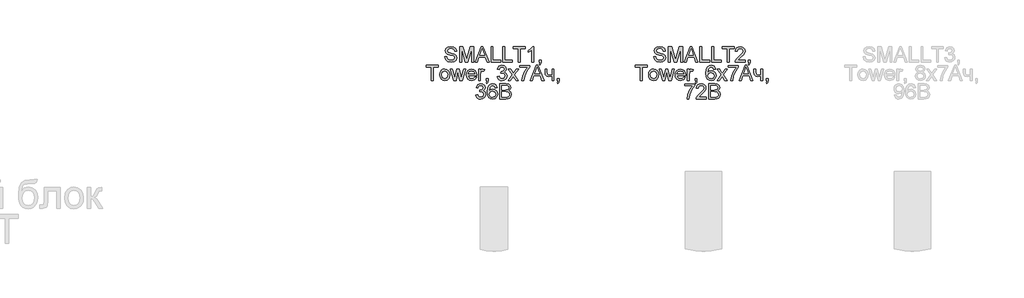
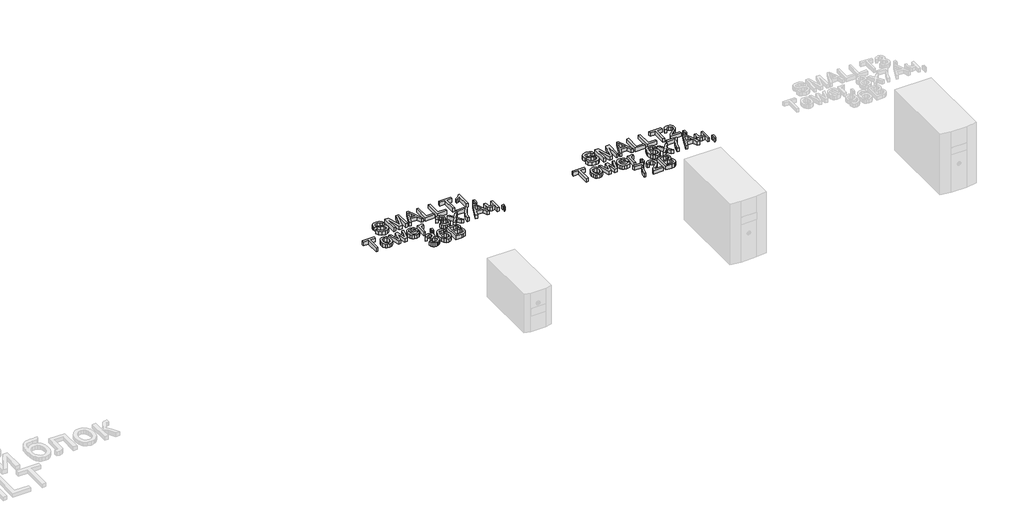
# One storey, part 14 of 74: 2 proxies.
"""IFC4 building model written with IfcOpenShell, lengths in millimetres."""

from ifc_helpers import new_model, si_unit, origin, origin_with_axes, place, context, project, spatial, polyline, outline, extrude, element, save

model = new_model("IFC4")

# Units and contexts
model_context = context("Model", 3, world=origin())
ifc_project = project(units=[si_unit("LENGTHUNIT", "METRE", prefix="MILLI")], contexts=[model_context])

# Site, building, storey
site = spatial("IfcSite", under=ifc_project)
building = spatial("IfcBuilding", under=site)
storey = spatial("IfcBuildingStorey", under=building, Name="Этаж 01", Elevation=0.0)

# Proxies
placement = place(None, origin())
element("IfcBuildingElementProxy", 1, Name="80 мм Arial", ObjectType="80 мм Arial", at=placement, inside=storey, context=model_context, shape_type="SweptSolid", body=[
    extrude(outline(polyline([(1093.2909258, -27640.6321793), (1103.3365569, -27640.6321793), (1106.5739184, -27650.6876205), (1114.4809288, -27657.0446214), (1126.5278378, -27659.4677375), (1137.0247374, -27657.6332326), (1143.8035763, -27652.5907967), (1146.0304887, -27645.8511986), (1144.362757, -27639.5824894), (1137.5348671, -27635.0207526), (1122.907879, -27631.1849697), (1107.1625296, -27626.2308255), (1098.6178571, -27618.7554634), (1095.8023336, -27608.7686935), (1099.2849498, -27597.3986873), (1109.4581133, -27589.3739547), (1124.3499764, -27586.6369126), (1140.2424786, -27589.5014871), (1150.8374801, -27597.9186271), (1154.8204158, -27610.4952863), (1144.7747848, -27610.4952863), (1139.0848766, -27600.17497), (1124.7423839, -27596.6825436), (1110.3606504, -27600.1357293), (1105.8479646, -27608.4743879), (1109.0460854, -27615.4396203), (1125.4487173, -27621.051047), (1143.2247753, -27626.0934829), (1152.9466702, -27634.2359377), (1156.0761197, -27645.5961337), (1152.4757812, -27657.6136122), (1142.1162242, -27666.383919), (1126.9202453, -27669.5133685), (1108.9774141, -27666.1386643), (1097.6270283, -27655.9753111), (1093.2909258, -27640.6321793)])), origin_with_axes(), (0.0, 0.0, 1.0), 20.0),
    extrude(outline(polyline([(1171.1445662, -27668.2576646), (1171.1445662, -27587.8926165), (1188.4301149, -27587.8926165), (1204.8719875, -27644.5366336), (1208.1878306, -27656.3677185), (1211.7783589, -27643.5556149), (1227.9455463, -27587.8926165), (1245.231095, -27587.8926165), (1245.231095, -27668.2576646), (1235.1854639, -27668.2576646), (1235.1854639, -27597.9382475), (1214.9961, -27668.2576646), (1201.3795611, -27668.2576646), (1181.1901972, -27597.9382475), (1181.1901972, -27668.2576646), (1171.1445662, -27668.2576646)])), origin_with_axes(), (0.0, 0.0, 1.0), 20.0),
    extrude(outline(polyline([(1253.4520313, -27668.2576646), (1285.5313412, -27587.8926165), (1294.0858239, -27587.8926165), (1326.1651339, -27668.2576646), (1315.5505121, -27668.2576646), (1306.3485571, -27643.1435871), (1273.2489877, -27643.1435871), (1264.0666531, -27668.2576646), (1253.4520313, -27668.2576646)]), holes=[polyline([(1276.9376178, -27633.0979561), (1302.6795473, -27633.0979561), (1295.4396297, -27613.3402404), (1289.8085826, -27597.9382475), (1284.8053874, -27611.6136476), (1276.9376178, -27633.0979561)])]), origin_with_axes(), (0.0, 0.0, 1.0), 20.0),
    extrude(outline(polyline([(1336.897478, -27668.2576646), (1336.897478, -27587.8926165), (1346.943109, -27587.8926165), (1346.943109, -27658.2120336), (1387.125633, -27658.2120336), (1387.125633, -27668.2576646), (1336.897478, -27668.2576646)])), origin_with_axes(), (0.0, 0.0, 1.0), 20.0),
    extrude(outline(polyline([(1398.4269679, -27668.2576646), (1398.4269679, -27587.8926165), (1408.4725989, -27587.8926165), (1408.4725989, -27658.2120336), (1448.655123, -27658.2120336), (1448.655123, -27668.2576646), (1398.4269679, -27668.2576646)])), origin_with_axes(), (0.0, 0.0, 1.0), 20.0),
    extrude(outline(polyline([(1480.0477199, -27668.2576646), (1480.0477199, -27597.9382475), (1453.6779385, -27597.9382475), (1453.6779385, -27587.8926165), (1516.4631324, -27587.8926165), (1516.4631324, -27597.9382475), (1490.0933509, -27597.9382475), (1490.0933509, -27668.2576646), (1480.0477199, -27668.2576646)])), origin_with_axes(), (0.0, 0.0, 1.0), 20.0),
    extrude(outline(polyline([(1561.6684719, -27668.2576646), (1551.6228409, -27668.2576646), (1551.6228409, -27605.6294338), (1542.10696, -27612.4082727), (1531.5315789, -27617.4801391), (1531.5315789, -27607.9838785), (1546.2566689, -27598.5857198), (1555.1937488, -27587.8926165), (1561.6684719, -27587.8926165), (1561.6684719, -27668.2576646)])), origin_with_axes(), (0.0, 0.0, 1.0), 20.0),
    extrude(outline(polyline([(1590.5496611, -27668.2576646), (1590.5496611, -27658.2120336), (1600.5952921, -27658.2120336), (1600.5952921, -27668.2576646), (1598.7902178, -27678.5289299), (1593.0610688, -27684.581815), (1590.5496611, -27680.8147034), (1594.2382912, -27676.4786009), (1595.5528562, -27668.2576646), (1590.5496611, -27668.2576646)])), origin_with_axes(), (0.0, 0.0, 1.0), 20.0),
    extrude(outline(polyline([(1022.3436568, -27765.8375189), (1022.3436568, -27695.5181018), (995.9738754, -27695.5181018), (995.9738754, -27685.4724708), (1058.7590692, -27685.4724708), (1058.7590692, -27695.5181018), (1032.3892878, -27695.5181018), (1032.3892878, -27765.8375189), (1022.3436568, -27765.8375189)])), origin_with_axes(), (0.0, 0.0, 1.0), 20.0),
    extrude(outline(polyline([(1066.2932925, -27736.3284778), (1068.4662488, -27722.0988022), (1074.9851178, -27712.097317), (1083.0392809, -27707.1971289), (1092.6826943, -27705.5637328), (1103.2360025, -27707.5527481), (1111.6654052, -27713.5197941), (1117.1909928, -27722.9939817), (1119.0328553, -27735.5044221), (1115.7758734, -27753.378582), (1106.289423, -27763.4928843), (1092.6826943, -27767.0932228), (1082.0018537, -27765.1115651), (1073.5822611, -27759.1665921), (1068.1155346, -27749.4937481), (1066.2932925, -27736.3284778)]), holes=[polyline([(1076.3389235, -27736.3088574), (1080.9889519, -27751.8776235), (1092.6826943, -27757.0475918), (1104.3371959, -27751.8481929), (1108.9872243, -27735.9949315), (1104.3077653, -27720.7793321), (1092.6826943, -27715.6093638), (1080.9889519, -27720.7597118), (1076.3389235, -27736.3088574)])]), origin_with_axes(), (0.0, 0.0, 1.0), 20.0),
    extrude(outline(polyline([(1140.1247564, -27765.8375189), (1122.172115, -27706.8194367), (1132.6101535, -27706.8194367), (1142.7931271, -27741.2531914), (1145.8342849, -27753.5551654), (1148.3260723, -27741.70446), (1156.4292864, -27706.8194367), (1168.397714, -27706.8194367), (1176.4616873, -27741.6063582), (1178.6787895, -27752.3387022), (1181.8572899, -27741.017747), (1192.0598839, -27706.8194367), (1202.5371631, -27706.8194367), (1184.4471792, -27765.8375189), (1172.3021682, -27765.8375189), (1164.5913616, -27731.2271808), (1162.3546391, -27720.4359756), (1152.4071099, -27765.8375189), (1140.1247564, -27765.8375189)])), origin_with_axes(), (0.0, 0.0, 1.0), 20.0),
    extrude(outline(polyline([(1250.7640402, -27748.2576646), (1260.6134674, -27749.5133685), (1251.4017023, -27762.4824351), (1234.243686, -27767.0932228), (1222.4567469, -27765.1042075), (1213.3872294, -27759.1371615), (1207.6041245, -27749.5795873), (1205.6764228, -27736.8189871), (1207.6237449, -27723.6291913), (1213.4657109, -27713.7650488), (1222.4126011, -27707.6140618), (1233.6746952, -27705.5637328), (1244.5860752, -27707.6091567), (1253.3048785, -27713.7454284), (1259.0217647, -27723.5899506), (1260.9273934, -27736.760126), (1260.8685323, -27739.4677375), (1215.7220538, -27739.4677375), (1221.5002537, -27752.5152856), (1234.4398898, -27757.0475918), (1244.289317, -27754.9482118), (1250.7640402, -27748.2576646)]), holes=[polyline([(1215.7220538, -27729.4221065), (1250.8817624, -27729.4221065), (1246.8595859, -27720.3182534), (1233.6354545, -27715.6093638), (1221.2648092, -27719.3666653), (1215.7220538, -27729.4221065)])]), origin_with_axes(), (0.0, 0.0, 1.0), 20.0),
    extrude(outline(polyline([(1270.9730244, -27765.8375189), (1270.9730244, -27706.8194367), (1279.7629516, -27706.8194367), (1279.7629516, -27715.5505027), (1286.0022302, -27707.5061497), (1292.2807496, -27705.5637328), (1302.3656213, -27708.6637518), (1299.0105376, -27717.669503), (1291.9472032, -27715.6093638), (1286.2671052, -27717.5910215), (1282.6471464, -27723.084726), (1281.0186554, -27734.8177091), (1281.0186554, -27765.8375189), (1270.9730244, -27765.8375189)])), origin_with_axes(), (0.0, 0.0, 1.0), 20.0),
    extrude(outline(polyline([(1311.1555485, -27765.8375189), (1311.1555485, -27755.7918879), (1321.2011795, -27755.7918879), (1321.2011795, -27765.8375189), (1319.3961052, -27776.1087842), (1313.6669562, -27782.1616693), (1311.1555485, -27778.3945577), (1314.8441786, -27774.0584552), (1316.1587436, -27765.8375189), (1311.1555485, -27765.8375189)])), origin_with_axes(), (0.0, 0.0, 1.0), 20.0),
    extrude(outline(polyline([(1368.9179268, -27744.490553), (1378.9635578, -27743.2348491), (1384.5063132, -27753.8102302), (1394.8756804, -27757.0475918), (1407.0795525, -27752.5937671), (1411.6118586, -27741.5671174), (1407.1187932, -27731.1781299), (1395.6997361, -27727.0676617), (1388.6560221, -27728.1664026), (1389.7743834, -27718.1207716), (1391.383254, -27718.2384938), (1402.7826908, -27715.354299), (1407.844747, -27706.4858903), (1404.1757372, -27698.6279309), (1394.7187174, -27695.5181018), (1385.1439754, -27698.6573615), (1380.2192617, -27708.0751406), (1370.1736307, -27706.8194367), (1378.394567, -27691.0642771), (1394.3655507, -27685.4724708), (1406.4811311, -27688.2291332), (1414.9571322, -27695.7633565), (1417.890378, -27705.8972792), (1415.104285, -27715.1580952), (1406.8637284, -27721.8094017), (1417.8118965, -27728.6765323), (1421.6574897, -27741.7437008), (1419.7346931, -27751.5342669), (1413.9663034, -27759.7159625), (1405.2597629, -27765.2489077), (1394.5225137, -27767.0932228), (1384.810429, -27765.5186878), (1376.9034187, -27760.795083), (1371.4048091, -27753.5698806), (1368.9179268, -27744.490553)])), origin_with_axes(), (0.0, 0.0, 1.0), 20.0),
    extrude(outline(polyline([(1426.6803052, -27765.8375189), (1448.1449933, -27736.1715148), (1427.936009, -27706.8194367), (1440.0221588, -27706.8194367), (1449.7734843, -27720.9461053), (1454.3254108, -27727.6170321), (1458.2691058, -27722.1625684), (1469.374237, -27706.8194367), (1481.4603868, -27706.8194367), (1460.2311431, -27736.1715148), (1480.6755719, -27765.8375189), (1468.589422, -27765.8375189), (1456.2874481, -27748.0025998), (1454.0311052, -27744.7456178), (1438.766455, -27765.8375189), (1426.6803052, -27765.8375189)])), origin_with_axes(), (0.0, 0.0, 1.0), 20.0),
    extrude(outline(polyline([(1486.9540912, -27696.7738057), (1486.9540912, -27686.7281747), (1539.6936541, -27686.7281747), (1539.6936541, -27694.8510091), (1524.7331196, -27716.4628501), (1513.2846319, -27744.0000437), (1509.556761, -27765.8375189), (1499.51113, -27765.8375189), (1503.5038759, -27743.175988), (1514.4618543, -27717.5615909), (1529.6480231, -27696.7738057), (1486.9540912, -27696.7738057)])), origin_with_axes(), (0.0, 0.0, 1.0), 20.0),
    extrude(outline(polyline([(1542.8917749, -27765.8375189), (1574.9710849, -27685.4724708), (1583.5255675, -27685.4724708), (1615.6048775, -27765.8375189), (1604.9902557, -27765.8375189), (1595.7883007, -27740.7234414), (1562.6887313, -27740.7234414), (1553.5063967, -27765.8375189), (1542.8917749, -27765.8375189)]), holes=[polyline([(1566.3773615, -27730.6778103), (1592.1192909, -27730.6778103), (1584.8793733, -27710.9200947), (1579.2483262, -27695.5181018), (1574.2451311, -27709.1935018), (1566.3773615, -27730.6778103)])]), origin_with_axes(), (0.0, 0.0, 1.0), 20.0),
    extrude(outline(polyline([(1621.3144061, -27706.8194367), (1631.3600371, -27706.8194367), (1631.3600371, -27718.140392), (1632.1742826, -27728.7550138), (1636.088547, -27734.5037831), (1643.8582147, -27736.9563297), (1657.7298185, -27733.9151719), (1657.7298185, -27706.8194367), (1667.7754495, -27706.8194367), (1667.7754495, -27765.8375189), (1657.7298185, -27765.8375189), (1657.7298185, -27743.5487751), (1641.1702236, -27747.0019607), (1629.7805971, -27743.4016223), (1623.0802396, -27734.5822646), (1621.3144061, -27723.1043463), (1621.3144061, -27706.8194367)])), origin_with_axes(), (0.0, 0.0, 1.0), 20.0),
    extrude(outline(polyline([(1685.3553038, -27765.8375189), (1685.3553038, -27755.7918879), (1695.4009348, -27755.7918879), (1695.4009348, -27765.8375189), (1693.5958605, -27776.1087842), (1687.8667115, -27782.1616693), (1685.3553038, -27778.3945577), (1689.0439339, -27774.0584552), (1690.3584989, -27765.8375189), (1685.3553038, -27765.8375189)])), origin_with_axes(), (0.0, 0.0, 1.0), 20.0),
    extrude(outline(polyline([(1256.5324298, -27842.0704073), (1266.5780609, -27840.8147034), (1272.1208163, -27851.3900845), (1282.4901834, -27854.627446), (1294.6940555, -27850.1736213), (1299.2263617, -27839.1469717), (1294.7332962, -27828.7579841), (1283.3142391, -27824.647516), (1276.2705252, -27825.7462569), (1277.3888864, -27815.7006259), (1278.997757, -27815.8183481), (1290.3971938, -27812.9341533), (1295.45925, -27804.0657446), (1291.7902403, -27796.2077852), (1282.3332204, -27793.0979561), (1272.7584784, -27796.2372158), (1267.8337647, -27805.6549948), (1257.7881337, -27804.399291), (1266.00907, -27788.6441314), (1281.9800537, -27783.0523251), (1294.0956341, -27785.8089875), (1302.5716353, -27793.3432107), (1305.504881, -27803.4771334), (1302.7187881, -27812.7379495), (1294.4782314, -27819.389256), (1305.4263995, -27826.2563866), (1309.2719927, -27839.323555), (1307.3491961, -27849.1141212), (1301.5808064, -27857.2958168), (1292.8742659, -27862.828762), (1282.1370167, -27864.6730771), (1272.424932, -27863.0985421), (1264.5179217, -27858.3749373), (1259.0193121, -27851.1497349), (1256.5324298, -27842.0704073)])), origin_with_axes(), (0.0, 0.0, 1.0), 20.0),
    extrude(outline(polyline([(1369.5457788, -27804.399291), (1359.5001477, -27805.6549948), (1355.6937954, -27797.2770955), (1345.628544, -27793.0979561), (1336.5639316, -27795.5308823), (1329.7066112, -27804.664166), (1326.8518469, -27822.5677564), (1335.7104454, -27814.552834), (1346.6880441, -27811.9335142), (1355.9684806, -27813.7238733), (1363.7577687, -27819.0949504), (1369.0405542, -27827.3011714), (1370.8014826, -27837.5969622), (1367.4856396, -27851.4587558), (1358.3621661, -27861.2689423), (1345.1968958, -27864.6730771), (1333.7999116, -27862.4167341), (1324.7230365, -27855.6477054), (1318.7854211, -27843.6988982), (1316.8062159, -27825.9032199), (1319.0036977, -27805.8953444), (1325.5961431, -27792.2150393), (1334.5969892, -27785.3430036), (1346.2563959, -27783.0523251), (1355.0708485, -27784.469897), (1362.1292777, -27788.7226129), (1369.5457788, -27804.399291)]), holes=[polyline([(1326.8518469, -27837.4399992), (1329.1768612, -27846.1416347), (1335.3572787, -27852.4593948), (1344.4120809, -27854.627446), (1356.252976, -27850.1343806), (1360.7558516, -27837.9305086), (1356.3118371, -27826.2465764), (1344.000053, -27821.9791452), (1331.8452319, -27826.2465764), (1326.8518469, -27837.4399992)])]), origin_with_axes(), (0.0, 0.0, 1.0), 20.0),
    extrude(outline(polyline([(1383.3585214, -27863.4173732), (1383.3585214, -27783.0523251), (1414.0251645, -27783.0523251), (1429.0445601, -27785.41658), (1437.9129687, -27792.6859282), (1441.1208997, -27802.9670037), (1438.4230984, -27812.3553522), (1430.2708334, -27819.4677375), (1440.1693116, -27826.96272), (1443.6323075, -27839.4608977), (1441.2680525, -27850.261913), (1435.4113712, -27857.9530993), (1426.670495, -27862.0341369), (1413.78972, -27863.4173732), (1383.3585214, -27863.4173732)]), holes=[polyline([(1393.4041524, -27815.7006259), (1411.7492012, -27815.7006259), (1422.4619249, -27814.8373294), (1428.9072175, -27811.1192687), (1431.0752687, -27804.5758743), (1429.0543703, -27798.0226697), (1423.2663602, -27794.147646), (1410.3561548, -27793.0979561), (1393.4041524, -27793.0979561), (1393.4041524, -27815.7006259)]), polyline([(1393.4041524, -27853.3717422), (1414.0055442, -27853.3717422), (1421.4612859, -27852.9793347), (1427.7692359, -27850.7916631), (1431.9483753, -27846.3280282), (1433.5866765, -27839.5589995), (1431.6638799, -27831.750091), (1425.4344115, -27827.0902524), (1413.0245255, -27825.7462569), (1393.4041524, -27825.7462569), (1393.4041524, -27853.3717422)])]), origin_with_axes(), (0.0, 0.0, 1.0), 20.0),
])
element("IfcBuildingElementProxy", 2, Name="80 мм Arial", ObjectType="80 мм Arial", at=placement, inside=storey, context=model_context, shape_type="SweptSolid", body=[
    extrude(outline(polyline([(2193.2909258, -27640.6321793), (2203.3365569, -27640.6321793), (2206.5739184, -27650.6876205), (2214.4809288, -27657.0446214), (2226.5278378, -27659.4677375), (2237.0247374, -27657.6332326), (2243.8035763, -27652.5907967), (2246.0304887, -27645.8511986), (2244.362757, -27639.5824894), (2237.5348671, -27635.0207526), (2222.907879, -27631.1849697), (2207.1625296, -27626.2308255), (2198.6178571, -27618.7554634), (2195.8023336, -27608.7686935), (2199.2849498, -27597.3986873), (2209.4581133, -27589.3739547), (2224.3499764, -27586.6369126), (2240.2424786, -27589.5014871), (2250.8374801, -27597.9186271), (2254.8204158, -27610.4952863), (2244.7747848, -27610.4952863), (2239.0848766, -27600.17497), (2224.7423839, -27596.6825436), (2210.3606504, -27600.1357293), (2205.8479646, -27608.4743879), (2209.0460854, -27615.4396203), (2225.4487173, -27621.051047), (2243.2247753, -27626.0934829), (2252.9466702, -27634.2359377), (2256.0761197, -27645.5961337), (2252.4757812, -27657.6136122), (2242.1162242, -27666.383919), (2226.9202453, -27669.5133685), (2208.9774141, -27666.1386643), (2197.6270283, -27655.9753111), (2193.2909258, -27640.6321793)])), origin_with_axes(), (0.0, 0.0, 1.0), 20.0),
    extrude(outline(polyline([(2271.1445662, -27668.2576646), (2271.1445662, -27587.8926165), (2288.4301149, -27587.8926165), (2304.8719875, -27644.5366336), (2308.1878306, -27656.3677185), (2311.7783589, -27643.5556149), (2327.9455463, -27587.8926165), (2345.231095, -27587.8926165), (2345.231095, -27668.2576646), (2335.1854639, -27668.2576646), (2335.1854639, -27597.9382475), (2314.9961, -27668.2576646), (2301.3795611, -27668.2576646), (2281.1901972, -27597.9382475), (2281.1901972, -27668.2576646), (2271.1445662, -27668.2576646)])), origin_with_axes(), (0.0, 0.0, 1.0), 20.0),
    extrude(outline(polyline([(2353.4520313, -27668.2576646), (2385.5313412, -27587.8926165), (2394.0858239, -27587.8926165), (2426.1651339, -27668.2576646), (2415.5505121, -27668.2576646), (2406.3485571, -27643.1435871), (2373.2489877, -27643.1435871), (2364.0666531, -27668.2576646), (2353.4520313, -27668.2576646)]), holes=[polyline([(2376.9376178, -27633.0979561), (2402.6795473, -27633.0979561), (2395.4396297, -27613.3402404), (2389.8085826, -27597.9382475), (2384.8053874, -27611.6136476), (2376.9376178, -27633.0979561)])]), origin_with_axes(), (0.0, 0.0, 1.0), 20.0),
    extrude(outline(polyline([(2436.897478, -27668.2576646), (2436.897478, -27587.8926165), (2446.943109, -27587.8926165), (2446.943109, -27658.2120336), (2487.125633, -27658.2120336), (2487.125633, -27668.2576646), (2436.897478, -27668.2576646)])), origin_with_axes(), (0.0, 0.0, 1.0), 20.0),
    extrude(outline(polyline([(2498.4269679, -27668.2576646), (2498.4269679, -27587.8926165), (2508.4725989, -27587.8926165), (2508.4725989, -27658.2120336), (2548.655123, -27658.2120336), (2548.655123, -27668.2576646), (2498.4269679, -27668.2576646)])), origin_with_axes(), (0.0, 0.0, 1.0), 20.0),
    extrude(outline(polyline([(2580.0477199, -27668.2576646), (2580.0477199, -27597.9382475), (2553.6779385, -27597.9382475), (2553.6779385, -27587.8926165), (2616.4631324, -27587.8926165), (2616.4631324, -27597.9382475), (2590.0933509, -27597.9382475), (2590.0933509, -27668.2576646), (2580.0477199, -27668.2576646)])), origin_with_axes(), (0.0, 0.0, 1.0), 20.0),
    extrude(outline(polyline([(2675.4812146, -27658.2120336), (2675.4812146, -27668.2576646), (2622.7416517, -27668.2576646), (2623.8207723, -27661.3316729), (2629.9227083, -27650.6680002), (2642.4993674, -27639.0233087), (2659.8437772, -27622.2871305), (2664.1798797, -27610.9073141), (2660.0890319, -27601.695549), (2649.4057387, -27597.9382475), (2638.271177, -27601.6072573), (2634.0429866, -27611.7509902), (2623.9973556, -27610.4952863), (2626.4327344, -27600.7782965), (2631.698352, -27593.6806266), (2639.5195233, -27589.339619), (2649.6215629, -27587.8926165), (2659.7971788, -27589.5014871), (2667.6036348, -27594.3280989), (2672.5700417, -27601.538586), (2674.2255107, -27610.2990826), (2672.4400567, -27619.8247737), (2666.5048939, -27629.674201), (2652.1133502, -27643.4378927), (2640.5569505, -27653.1009264), (2636.0246443, -27658.2120336), (2675.4812146, -27658.2120336)])), origin_with_axes(), (0.0, 0.0, 1.0), 20.0),
    extrude(outline(polyline([(2690.5496611, -27668.2576646), (2690.5496611, -27658.2120336), (2700.5952921, -27658.2120336), (2700.5952921, -27668.2576646), (2698.7902178, -27678.5289299), (2693.0610688, -27684.581815), (2690.5496611, -27680.8147034), (2694.2382912, -27676.4786009), (2695.5528562, -27668.2576646), (2690.5496611, -27668.2576646)])), origin_with_axes(), (0.0, 0.0, 1.0), 20.0),
    extrude(outline(polyline([(2122.3436568, -27765.8375189), (2122.3436568, -27695.5181018), (2095.9738754, -27695.5181018), (2095.9738754, -27685.4724708), (2158.7590692, -27685.4724708), (2158.7590692, -27695.5181018), (2132.3892878, -27695.5181018), (2132.3892878, -27765.8375189), (2122.3436568, -27765.8375189)])), origin_with_axes(), (0.0, 0.0, 1.0), 20.0),
    extrude(outline(polyline([(2166.2932925, -27736.3284778), (2168.4662488, -27722.0988022), (2174.9851178, -27712.097317), (2183.0392809, -27707.1971289), (2192.6826943, -27705.5637328), (2203.2360025, -27707.5527481), (2211.6654052, -27713.5197941), (2217.1909928, -27722.9939817), (2219.0328553, -27735.5044221), (2215.7758734, -27753.378582), (2206.289423, -27763.4928843), (2192.6826943, -27767.0932228), (2182.0018537, -27765.1115651), (2173.5822611, -27759.1665921), (2168.1155346, -27749.4937481), (2166.2932925, -27736.3284778)]), holes=[polyline([(2176.3389235, -27736.3088574), (2180.9889519, -27751.8776235), (2192.6826943, -27757.0475918), (2204.3371959, -27751.8481929), (2208.9872243, -27735.9949315), (2204.3077653, -27720.7793321), (2192.6826943, -27715.6093638), (2180.9889519, -27720.7597118), (2176.3389235, -27736.3088574)])]), origin_with_axes(), (0.0, 0.0, 1.0), 20.0),
    extrude(outline(polyline([(2240.1247564, -27765.8375189), (2222.172115, -27706.8194367), (2232.6101535, -27706.8194367), (2242.7931271, -27741.2531914), (2245.8342849, -27753.5551654), (2248.3260723, -27741.70446), (2256.4292864, -27706.8194367), (2268.397714, -27706.8194367), (2276.4616873, -27741.6063582), (2278.6787895, -27752.3387022), (2281.8572899, -27741.017747), (2292.0598839, -27706.8194367), (2302.5371631, -27706.8194367), (2284.4471792, -27765.8375189), (2272.3021682, -27765.8375189), (2264.5913616, -27731.2271808), (2262.3546391, -27720.4359756), (2252.4071099, -27765.8375189), (2240.1247564, -27765.8375189)])), origin_with_axes(), (0.0, 0.0, 1.0), 20.0),
    extrude(outline(polyline([(2350.7640402, -27748.2576646), (2360.6134674, -27749.5133685), (2351.4017023, -27762.4824351), (2334.243686, -27767.0932228), (2322.4567469, -27765.1042075), (2313.3872294, -27759.1371615), (2307.6041245, -27749.5795873), (2305.6764228, -27736.8189871), (2307.6237449, -27723.6291913), (2313.4657109, -27713.7650488), (2322.4126011, -27707.6140618), (2333.6746952, -27705.5637328), (2344.5860752, -27707.6091567), (2353.3048785, -27713.7454284), (2359.0217647, -27723.5899506), (2360.9273934, -27736.760126), (2360.8685323, -27739.4677375), (2315.7220538, -27739.4677375), (2321.5002537, -27752.5152856), (2334.4398898, -27757.0475918), (2344.289317, -27754.9482118), (2350.7640402, -27748.2576646)]), holes=[polyline([(2315.7220538, -27729.4221065), (2350.8817624, -27729.4221065), (2346.8595859, -27720.3182534), (2333.6354545, -27715.6093638), (2321.2648092, -27719.3666653), (2315.7220538, -27729.4221065)])]), origin_with_axes(), (0.0, 0.0, 1.0), 20.0),
    extrude(outline(polyline([(2370.9730244, -27765.8375189), (2370.9730244, -27706.8194367), (2379.7629516, -27706.8194367), (2379.7629516, -27715.5505027), (2386.0022302, -27707.5061497), (2392.2807496, -27705.5637328), (2402.3656213, -27708.6637518), (2399.0105376, -27717.669503), (2391.9472032, -27715.6093638), (2386.2671052, -27717.5910215), (2382.6471464, -27723.084726), (2381.0186554, -27734.8177091), (2381.0186554, -27765.8375189), (2370.9730244, -27765.8375189)])), origin_with_axes(), (0.0, 0.0, 1.0), 20.0),
    extrude(outline(polyline([(2411.1555485, -27765.8375189), (2411.1555485, -27755.7918879), (2421.2011795, -27755.7918879), (2421.2011795, -27765.8375189), (2419.3961052, -27776.1087842), (2413.6669562, -27782.1616693), (2411.1555485, -27778.3945577), (2414.8441786, -27774.0584552), (2416.1587436, -27765.8375189), (2411.1555485, -27765.8375189)])), origin_with_axes(), (0.0, 0.0, 1.0), 20.0),
    extrude(outline(polyline([(2520.4017858, -27706.8194367), (2510.3561548, -27708.0751406), (2506.5498024, -27699.6972413), (2496.484551, -27695.5181018), (2487.4199386, -27697.9510281), (2480.5626182, -27707.0843117), (2477.707854, -27724.9879022), (2486.5664524, -27716.9729798), (2497.5440511, -27714.3536599), (2506.8244876, -27716.144019), (2514.6137757, -27721.5150961), (2519.8965612, -27729.7213172), (2521.6574897, -27740.0171079), (2518.3416466, -27753.8789015), (2509.2181731, -27763.689088), (2496.0529028, -27767.0932228), (2484.6559186, -27764.8368799), (2475.5790435, -27758.0678512), (2469.6414281, -27746.119044), (2467.6622229, -27728.3233656), (2469.8597047, -27708.3154901), (2476.4521501, -27694.635185), (2485.4529962, -27687.7631493), (2497.1124029, -27685.4724708), (2505.9268555, -27686.8900427), (2512.9852848, -27691.1427586), (2520.4017858, -27706.8194367)]), holes=[polyline([(2477.707854, -27739.8601449), (2480.0328682, -27748.5617804), (2486.2132857, -27754.8795405), (2495.2680879, -27757.0475918), (2507.108983, -27752.5545263), (2511.6118586, -27740.3506543), (2507.1678441, -27728.6667221), (2494.85606, -27724.399291), (2482.7012389, -27728.6667221), (2477.707854, -27739.8601449)])]), origin_with_axes(), (0.0, 0.0, 1.0), 20.0),
    extrude(outline(polyline([(2526.6803052, -27765.8375189), (2548.1449933, -27736.1715148), (2527.936009, -27706.8194367), (2540.0221588, -27706.8194367), (2549.7734843, -27720.9461053), (2554.3254108, -27727.6170321), (2558.2691058, -27722.1625684), (2569.374237, -27706.8194367), (2581.4603868, -27706.8194367), (2560.2311431, -27736.1715148), (2580.6755719, -27765.8375189), (2568.589422, -27765.8375189), (2556.2874481, -27748.0025998), (2554.0311052, -27744.7456178), (2538.766455, -27765.8375189), (2526.6803052, -27765.8375189)])), origin_with_axes(), (0.0, 0.0, 1.0), 20.0),
    extrude(outline(polyline([(2586.9540912, -27696.7738057), (2586.9540912, -27686.7281747), (2639.6936541, -27686.7281747), (2639.6936541, -27694.8510091), (2624.7331196, -27716.4628501), (2613.2846319, -27744.0000437), (2609.556761, -27765.8375189), (2599.51113, -27765.8375189), (2603.5038759, -27743.175988), (2614.4618543, -27717.5615909), (2629.6480231, -27696.7738057), (2586.9540912, -27696.7738057)])), origin_with_axes(), (0.0, 0.0, 1.0), 20.0),
    extrude(outline(polyline([(2642.8917749, -27765.8375189), (2674.9710849, -27685.4724708), (2683.5255675, -27685.4724708), (2715.6048775, -27765.8375189), (2704.9902557, -27765.8375189), (2695.7883007, -27740.7234414), (2662.6887313, -27740.7234414), (2653.5063967, -27765.8375189), (2642.8917749, -27765.8375189)]), holes=[polyline([(2666.3773615, -27730.6778103), (2692.1192909, -27730.6778103), (2684.8793733, -27710.9200947), (2679.2483262, -27695.5181018), (2674.2451311, -27709.1935018), (2666.3773615, -27730.6778103)])]), origin_with_axes(), (0.0, 0.0, 1.0), 20.0),
    extrude(outline(polyline([(2721.3144061, -27706.8194367), (2731.3600371, -27706.8194367), (2731.3600371, -27718.140392), (2732.1742826, -27728.7550138), (2736.088547, -27734.5037831), (2743.8582147, -27736.9563297), (2757.7298185, -27733.9151719), (2757.7298185, -27706.8194367), (2767.7754495, -27706.8194367), (2767.7754495, -27765.8375189), (2757.7298185, -27765.8375189), (2757.7298185, -27743.5487751), (2741.1702236, -27747.0019607), (2729.7805971, -27743.4016223), (2723.0802396, -27734.5822646), (2721.3144061, -27723.1043463), (2721.3144061, -27706.8194367)])), origin_with_axes(), (0.0, 0.0, 1.0), 20.0),
    extrude(outline(polyline([(2785.3553038, -27765.8375189), (2785.3553038, -27755.7918879), (2795.4009348, -27755.7918879), (2795.4009348, -27765.8375189), (2793.5958605, -27776.1087842), (2787.8667115, -27782.1616693), (2785.3553038, -27778.3945577), (2789.0439339, -27774.0584552), (2790.3584989, -27765.8375189), (2785.3553038, -27765.8375189)])), origin_with_axes(), (0.0, 0.0, 1.0), 20.0),
    extrude(outline(polyline([(2356.5324298, -27794.3536599), (2356.5324298, -27784.3080289), (2409.2719927, -27784.3080289), (2409.2719927, -27792.4308634), (2394.3114582, -27814.0427043), (2382.8629705, -27841.5798979), (2379.1350996, -27863.4173732), (2369.0894686, -27863.4173732), (2373.0822145, -27840.7558423), (2384.0401929, -27815.1414452), (2399.2263617, -27794.3536599), (2356.5324298, -27794.3536599)])), origin_with_axes(), (0.0, 0.0, 1.0), 20.0),
    extrude(outline(polyline([(2469.5457788, -27853.3717422), (2469.5457788, -27863.4173732), (2416.8062159, -27863.4173732), (2417.8853365, -27856.4913815), (2423.9872725, -27845.8277087), (2436.5639316, -27834.1830173), (2453.9083414, -27817.4468391), (2458.2444439, -27806.0670227), (2454.1535961, -27796.8552575), (2443.4703029, -27793.0979561), (2432.3357412, -27796.7669658), (2428.1075508, -27806.9106987), (2418.0619198, -27805.6549948), (2420.4972986, -27795.9380051), (2425.7629162, -27788.8403351), (2433.5840875, -27784.4993276), (2443.686127, -27783.0523251), (2453.861743, -27784.6611956), (2461.668199, -27789.4878074), (2466.6346059, -27796.6982945), (2468.2900749, -27805.4587911), (2466.5046209, -27814.9844822), (2460.5694581, -27824.8339095), (2446.1779144, -27838.5976012), (2434.6215147, -27848.260635), (2430.0892085, -27853.3717422), (2469.5457788, -27853.3717422)])), origin_with_axes(), (0.0, 0.0, 1.0), 20.0),
    extrude(outline(polyline([(2483.3585214, -27863.4173732), (2483.3585214, -27783.0523251), (2514.0251645, -27783.0523251), (2529.0445601, -27785.41658), (2537.9129687, -27792.6859282), (2541.1208997, -27802.9670037), (2538.4230984, -27812.3553522), (2530.2708334, -27819.4677375), (2540.1693116, -27826.96272), (2543.6323075, -27839.4608977), (2541.2680525, -27850.261913), (2535.4113712, -27857.9530993), (2526.670495, -27862.0341369), (2513.78972, -27863.4173732), (2483.3585214, -27863.4173732)]), holes=[polyline([(2493.4041524, -27815.7006259), (2511.7492012, -27815.7006259), (2522.4619249, -27814.8373294), (2528.9072175, -27811.1192687), (2531.0752687, -27804.5758743), (2529.0543703, -27798.0226697), (2523.2663602, -27794.147646), (2510.3561548, -27793.0979561), (2493.4041524, -27793.0979561), (2493.4041524, -27815.7006259)]), polyline([(2493.4041524, -27853.3717422), (2514.0055442, -27853.3717422), (2521.4612859, -27852.9793347), (2527.7692359, -27850.7916631), (2531.9483753, -27846.3280282), (2533.5866765, -27839.5589995), (2531.6638799, -27831.750091), (2525.4344115, -27827.0902524), (2513.0245255, -27825.7462569), (2493.4041524, -27825.7462569), (2493.4041524, -27853.3717422)])]), origin_with_axes(), (0.0, 0.0, 1.0), 20.0),
])

save(model, "model.ifc")
